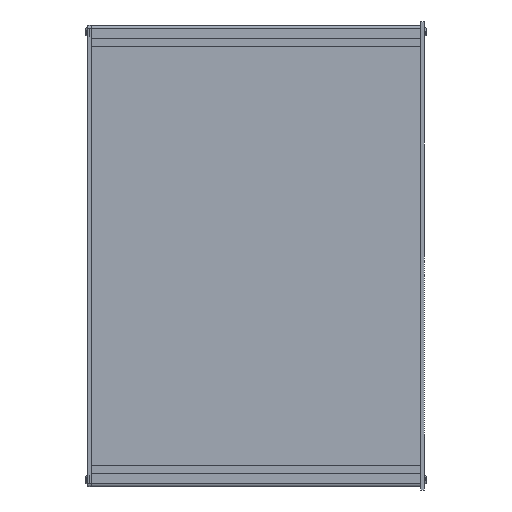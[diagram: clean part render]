
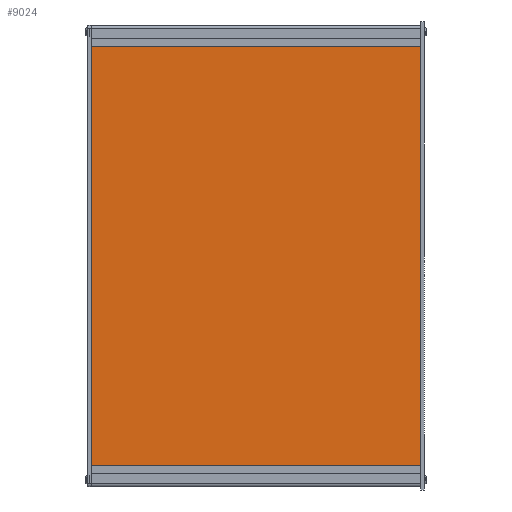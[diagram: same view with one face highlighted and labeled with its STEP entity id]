
A CAD part, left-side view. The second image highlights one B-rep face of the part: STEP entity #9024.
In plain terms, the highlighted planar face has unit normal (-1, 0, 0).
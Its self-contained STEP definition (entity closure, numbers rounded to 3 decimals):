
#992=PLANE('',#9904);
#1288=FACE_OUTER_BOUND('',#1844,.T.);
#1844=EDGE_LOOP('',(#6887,#6888,#6889,#6890));
#2674=LINE('',#14248,#3374);
#2684=LINE('',#14269,#3384);
#2685=LINE('',#14271,#3385);
#2686=LINE('',#14272,#3386);
#3374=VECTOR('',#11408,10.);
#3384=VECTOR('',#11426,10.);
#3385=VECTOR('',#11427,10.);
#3386=VECTOR('',#11428,10.);
#4430=VERTEX_POINT('',#14241);
#4433=VERTEX_POINT('',#14246);
#4440=VERTEX_POINT('',#14268);
#4441=VERTEX_POINT('',#14270);
#5317=EDGE_CURVE('',#4430,#4433,#2674,.T.);
#5327=EDGE_CURVE('',#4430,#4440,#2684,.T.);
#5328=EDGE_CURVE('',#4441,#4433,#2685,.T.);
#5329=EDGE_CURVE('',#4440,#4441,#2686,.T.);
#6887=ORIENTED_EDGE('',*,*,#5327,.F.);
#6888=ORIENTED_EDGE('',*,*,#5317,.T.);
#6889=ORIENTED_EDGE('',*,*,#5328,.F.);
#6890=ORIENTED_EDGE('',*,*,#5329,.F.);
#9024=ADVANCED_FACE('',(#1288),#992,.T.);
#9904=AXIS2_PLACEMENT_3D('',#14267,#11424,#11425);
#11408=DIRECTION('',(0.,1.,0.));
#11424=DIRECTION('center_axis',(-1.,0.,0.));
#11425=DIRECTION('ref_axis',(0.,0.,1.));
#11426=DIRECTION('',(0.,0.,-1.));
#11427=DIRECTION('',(0.,0.,1.));
#11428=DIRECTION('',(0.,1.,0.));
#14241=CARTESIAN_POINT('',(239.,0.,114.7));
#14246=CARTESIAN_POINT('',(239.,250.,114.7));
#14248=CARTESIAN_POINT('',(239.,0.,114.7));
#14267=CARTESIAN_POINT('Origin',(239.,0.,-202.8));
#14268=CARTESIAN_POINT('',(239.,0.,-202.8));
#14269=CARTESIAN_POINT('',(239.,0.,-44.05));
#14270=CARTESIAN_POINT('',(239.,250.,-202.8));
#14271=CARTESIAN_POINT('',(239.,250.,-44.05));
#14272=CARTESIAN_POINT('',(239.,0.,-202.8));
